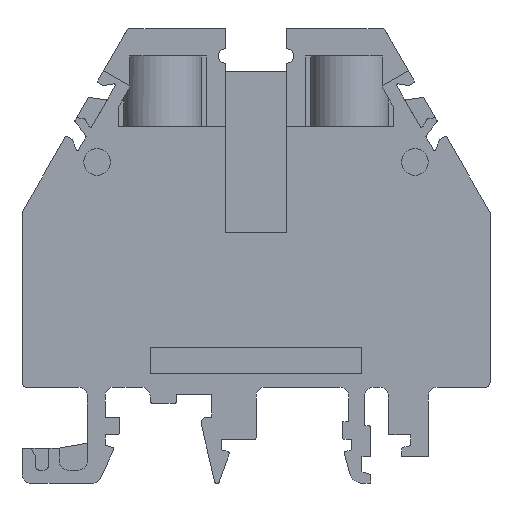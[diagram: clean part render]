
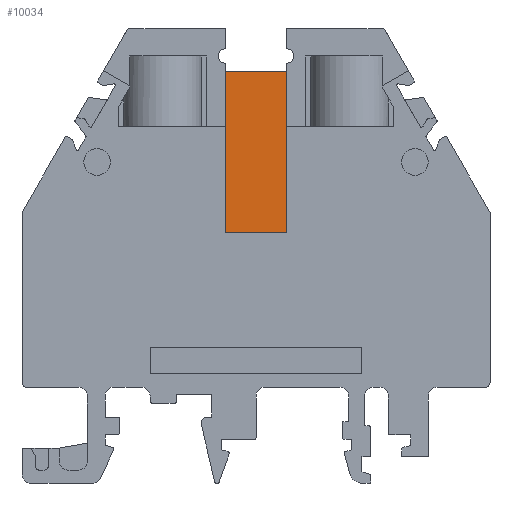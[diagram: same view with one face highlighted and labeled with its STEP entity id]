
A CAD part, front view. The second image highlights one B-rep face of the part: STEP entity #10034.
In plain terms, the highlighted planar face has unit normal (0, -1, 0).
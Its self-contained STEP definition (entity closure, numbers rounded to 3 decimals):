
#578=ORIENTED_EDGE('',*,*,#2557,.T.);
#579=ORIENTED_EDGE('',*,*,#2545,.T.);
#580=ORIENTED_EDGE('',*,*,#2550,.T.);
#581=ORIENTED_EDGE('',*,*,#2729,.T.);
#2545=EDGE_CURVE('',#3623,#3624,#4337,.T.);
#2550=EDGE_CURVE('',#3624,#3628,#4341,.T.);
#2557=EDGE_CURVE('',#3634,#3623,#4348,.T.);
#2729=EDGE_CURVE('',#3628,#3634,#4454,.T.);
#3623=VERTEX_POINT('',#13246);
#3624=VERTEX_POINT('',#13247);
#3628=VERTEX_POINT('',#13257);
#3634=VERTEX_POINT('',#13271);
#4337=LINE('',#13245,#5155);
#4341=LINE('',#13256,#5159);
#4348=LINE('',#13270,#5166);
#4454=LINE('',#13614,#5272);
#5155=VECTOR('',#11107,1000.);
#5159=VECTOR('',#11115,1000.);
#5166=VECTOR('',#11124,1000.);
#5272=VECTOR('',#11366,1000.);
#5981=EDGE_LOOP('',(#578,#579,#580,#581));
#6429=FACE_BOUND('',#5981,.T.);
#6875=PLANE('',#10514);
#10034=ADVANCED_FACE('',(#6429),#6875,.T.);
#10514=AXIS2_PLACEMENT_3D('',#13613,#11364,#11365);
#11107=DIRECTION('',(1.,0.,0.));
#11115=DIRECTION('',(0.,0.,1.));
#11124=DIRECTION('',(0.,0.,-1.));
#11364=DIRECTION('',(0.,-1.,0.));
#11365=DIRECTION('',(0.,0.,-1.));
#11366=DIRECTION('',(-1.,0.,0.));
#13245=CARTESIAN_POINT('',(-5.7,11.,17.5));
#13246=CARTESIAN_POINT('',(-3.5,11.,17.5));
#13247=CARTESIAN_POINT('',(3.5,11.,17.5));
#13256=CARTESIAN_POINT('',(3.5,11.,17.7));
#13257=CARTESIAN_POINT('',(3.5,11.,35.7));
#13270=CARTESIAN_POINT('',(-3.5,11.,35.7));
#13271=CARTESIAN_POINT('',(-3.5,11.,35.7));
#13613=CARTESIAN_POINT('',(-6.2,11.,28.));
#13614=CARTESIAN_POINT('',(3.5,11.,35.7));
